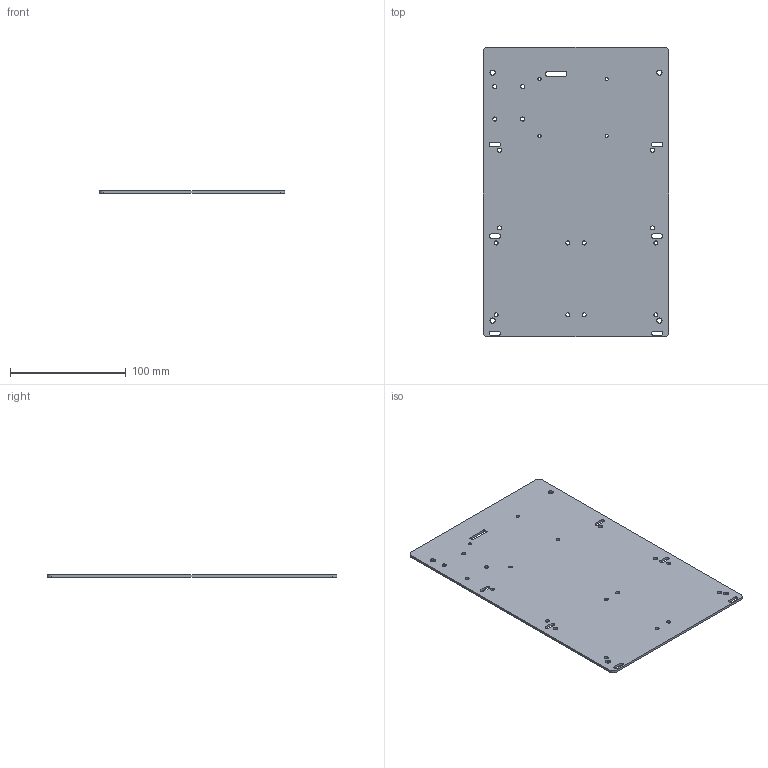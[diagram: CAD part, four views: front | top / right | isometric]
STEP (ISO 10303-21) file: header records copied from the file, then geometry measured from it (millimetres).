
FILE_DESCRIPTION(('Open CASCADE Model'),'2;1');
FILE_NAME('Open CASCADE Shape Model','2026-10-15T18:22:09',('Author'),( 'Open CASCADE'),'Open CASCADE STEP processor 7.9','Open CASCADE 7.9' ,'Unknown');
FILE_SCHEMA(('AUTOMOTIVE_DESIGN { 1 0 10303 214 1 1 1 1 }'));
Length unit declared in the file: millimetre
Products named in the file (1): Open CASCADE STEP translator 7.9 17
Bounding box: 160 x 250 x 2 mm (x, y, z)
Volume: 78960.9 mm3; surface area: 81492.5 mm2
Topology: 1 solids, 1 shells, 66 faces, 192 edges, 128 vertices
Faces by surface type: cylinder 44, plane 22
Full cylindrical faces by diameter (mm): 2.7 x4, 3.5 x16, 4.5 x4
Entity records: 4874 total; most frequent: CARTESIAN_POINT 1003, DIRECTION 706, ORIENTED_EDGE 384, PCURVE 384, DEFINITIONAL_REPRESENTATION 384, LINE 336, VECTOR 336, EDGE_CURVE 192
